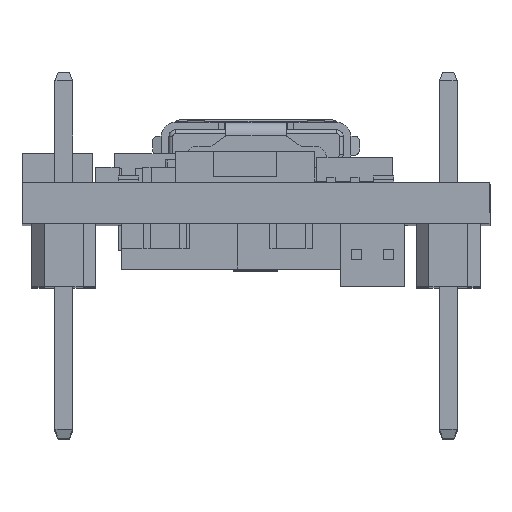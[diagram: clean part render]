
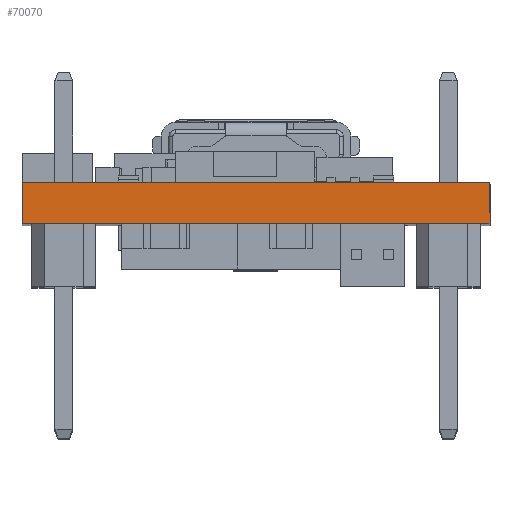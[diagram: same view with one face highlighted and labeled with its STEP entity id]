
A CAD part, top view. The second image highlights one B-rep face of the part: STEP entity #70070.
In plain terms, the highlighted planar face has unit normal (0, 0, 1).
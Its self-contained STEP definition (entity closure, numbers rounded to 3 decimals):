
#933 = EDGE_CURVE ( 'NONE', #36114, #91392, #63829, .T. ) ;
#9076 = CARTESIAN_POINT ( 'NONE',  ( -9.271, 61.882, 25.146 ) ) ;
#10662 = PLANE ( 'NONE',  #83623 ) ;
#26194 = DIRECTION ( 'NONE',  ( -1., 0., 0. ) ) ;
#26339 = ORIENTED_EDGE ( 'NONE', *, *, #84849, .F. ) ;
#28501 = ORIENTED_EDGE ( 'NONE', *, *, #29912, .T. ) ;
#29824 = VECTOR ( 'NONE', #30341, 1000. ) ;
#29912 = EDGE_CURVE ( 'NONE', #91392, #42743, #75318, .T. ) ;
#30341 = DIRECTION ( 'NONE',  ( 0., -1., 0. ) ) ;
#33331 = DIRECTION ( 'NONE',  ( 0., 0., -1. ) ) ;
#34229 = CARTESIAN_POINT ( 'NONE',  ( -9.271, 2.5, 25.146 ) ) ;
#34491 = VERTEX_POINT ( 'NONE', #68018 ) ;
#36114 = VERTEX_POINT ( 'NONE', #51806 ) ;
#38450 = FACE_OUTER_BOUND ( 'NONE', #92294, .T. ) ;
#39140 = DIRECTION ( 'NONE',  ( 1., 0., 0. ) ) ;
#40229 = DIRECTION ( 'NONE',  ( 0., -1., 0. ) ) ;
#41795 = VECTOR ( 'NONE', #90368, 1000. ) ;
#42743 = VERTEX_POINT ( 'NONE', #49284 ) ;
#49284 = CARTESIAN_POINT ( 'NONE',  ( 9.271, 2.5, 25.146 ) ) ;
#51806 = CARTESIAN_POINT ( 'NONE',  ( -9.271, 4.14, 25.146 ) ) ;
#63829 = LINE ( 'NONE', #9076, #74667 ) ;
#64004 = EDGE_CURVE ( 'NONE', #34491, #42743, #76530, .T. ) ;
#66989 = ORIENTED_EDGE ( 'NONE', *, *, #933, .T. ) ;
#67812 = ORIENTED_EDGE ( 'NONE', *, *, #64004, .F. ) ;
#68018 = CARTESIAN_POINT ( 'NONE',  ( 9.271, 4.14, 25.146 ) ) ;
#70070 = ADVANCED_FACE ( 'NONE', ( #38450 ), #10662, .F. ) ;
#74558 = CARTESIAN_POINT ( 'NONE',  ( 9.271, 61.882, 25.146 ) ) ;
#74667 = VECTOR ( 'NONE', #40229, 1000. ) ;
#75088 = VECTOR ( 'NONE', #39140, 1000. ) ;
#75318 = LINE ( 'NONE', #89359, #41795 ) ;
#76288 = LINE ( 'NONE', #77743, #75088 ) ;
#76530 = LINE ( 'NONE', #74558, #29824 ) ;
#77743 = CARTESIAN_POINT ( 'NONE',  ( -9.271, 4.14, 25.146 ) ) ;
#83623 = AXIS2_PLACEMENT_3D ( 'NONE', #86033, #33331, #26194 ) ;
#84849 = EDGE_CURVE ( 'NONE', #36114, #34491, #76288, .T. ) ;
#86033 = CARTESIAN_POINT ( 'NONE',  ( -9.271, 61.882, 25.146 ) ) ;
#89359 = CARTESIAN_POINT ( 'NONE',  ( -9.271, 2.5, 25.146 ) ) ;
#90368 = DIRECTION ( 'NONE',  ( 1., 0., 0. ) ) ;
#91392 = VERTEX_POINT ( 'NONE', #34229 ) ;
#92294 = EDGE_LOOP ( 'NONE', ( #26339, #66989, #28501, #67812 ) ) ;
